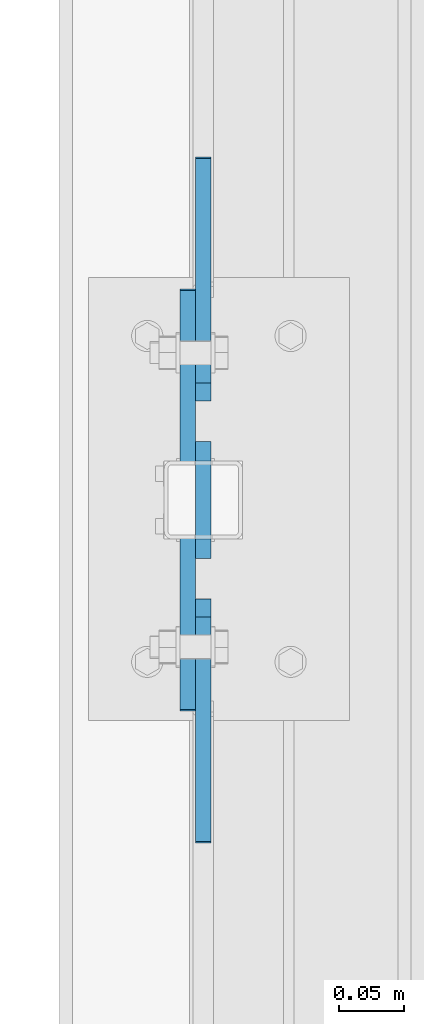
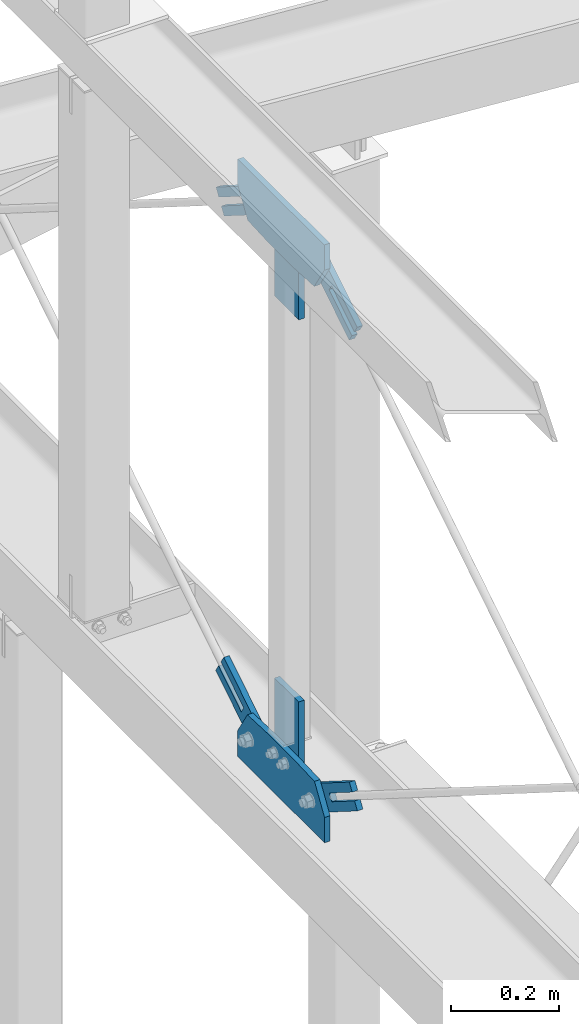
# One storey, part 107 of 271: 8 plates, 7 elements without a shape of their own.
"""IFC2X3 building model written with IfcOpenShell, lengths in millimetres."""

from ifc_helpers import new_model, si_unit, frame, origin_with_axes, place, context, subcontext, project, spatial, polyline, outline, extrude, material, type_object, element, aggregate, save


model = new_model("IFC2X3")

# Units and contexts
model_context = context("Model", 3, precision=1e-05, world=origin_with_axes())
body_context = subcontext(model_context, "Body", "Model", "MODEL_VIEW")
ifc_project = project(units=[si_unit("LENGTHUNIT", "METRE", prefix="MILLI"), si_unit("AREAUNIT", "SQUARE_METRE"), si_unit("VOLUMEUNIT", "CUBIC_METRE"), si_unit("MASSUNIT", "GRAM", prefix="KILO"), si_unit("TIMEUNIT", "SECOND"), si_unit("PLANEANGLEUNIT", "RADIAN"), si_unit("SOLIDANGLEUNIT", "STERADIAN"), si_unit("THERMODYNAMICTEMPERATUREUNIT", "DEGREE_CELSIUS"), si_unit("LUMINOUSINTENSITYUNIT", "LUMEN")], contexts=[model_context])

# Site, building, storey
site_placement = place(None, origin_with_axes())
site = spatial("IfcSite", under=ifc_project, at=site_placement, Name="Undefined", CompositionType="ELEMENT")
building_placement = place(site_placement, origin_with_axes())
building = spatial("IfcBuilding", under=site, at=building_placement, Name="Undefined", CompositionType="ELEMENT")
storey_placement = place(building_placement, origin_with_axes())
storey = spatial("IfcBuildingStorey", under=building, at=storey_placement, Name="Undefined", CompositionType="ELEMENT", Elevation=0.0)

# Assembly, plate
assembly_1_placement = place(storey_placement, origin_with_axes())
assembly_1 = element("IfcElementAssembly", 1, at=assembly_1_placement, inside=storey, AssemblyPlace="NOTDEFINED", PredefinedType="RIGID_FRAME")
ifc_material = material(Name="STEEL/S355JR")
plate_type_1 = type_object("IfcPlateType", Name="BL12*56", PredefinedType="NOTDEFINED")
plate_1_placement = place(assembly_1_placement, frame((98.9999993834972, 2289.7372595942, 19967.7804265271), z_axis=(1.0, 0.0, 0.0), x_axis=(0.0, -0.975225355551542, -0.221213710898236)))
plate_1 = element("IfcPlate", 2, at=plate_1_placement, type_object=plate_type_1, material=ifc_material, Name="BLACHA", ObjectType="BL12*56", context=body_context, shape_type="SweptSolid", body=[
    extrude(outline(polyline([(0.0, 0.0), (21.2132034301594, 1.09139364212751e-11), (39.5979804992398, 18.3847751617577), (39.5979804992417, 39.5979804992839), (-86.9741363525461, 166.170089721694), (-100.762718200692, 152.381515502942), (-30.0520401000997, 81.670829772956), (-42.0728530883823, 69.6500167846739), (-112.783531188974, 140.36070251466), (-126.57211303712, 126.57211303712), (0.0, 0.0)])), frame((0.0, 0.0, -6.0), z_axis=(0.0, 0.0, 1.0), x_axis=(1.0, 0.0, 0.0)), (0.0, 0.0, 1.0), 12.0),
])
aggregate(assembly_1, [plate_1])

assembly_2_placement = place(storey_placement, origin_with_axes())
assembly_2 = element("IfcElementAssembly", 3, at=assembly_2_placement, inside=storey, AssemblyPlace="NOTDEFINED", PredefinedType="RIGID_FRAME")
plate_2_placement = place(assembly_2_placement, frame((98.9999993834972, 2098.50717683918, 19920.4038569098), z_axis=(1.0, 0.0, 0.0), x_axis=(0.0, 0.221213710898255, 0.975225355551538)))
plate_2 = element("IfcPlate", 4, at=plate_2_placement, type_object=plate_type_1, material=ifc_material, Name="BLACHA", ObjectType="BL12*56", context=body_context, shape_type="SweptSolid", body=[
    extrude(outline(polyline([(0.0, 0.0), (21.2132034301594, 1.09139364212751e-11), (39.5979804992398, 18.3847751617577), (39.5979804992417, 39.5979804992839), (-86.9741363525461, 166.170089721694), (-100.762718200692, 152.381515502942), (-30.0520401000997, 81.670829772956), (-42.0728530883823, 69.6500167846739), (-112.783531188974, 140.36070251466), (-126.57211303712, 126.57211303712), (0.0, 0.0)])), frame((0.0, 0.0, -6.0), z_axis=(0.0, 0.0, 1.0), x_axis=(1.0, 0.0, 0.0)), (0.0, 0.0, 1.0), 12.0),
])
aggregate(assembly_2, [plate_2])

assembly_3_placement = place(storey_placement, origin_with_axes())
assembly_3 = element("IfcElementAssembly", 5, at=assembly_3_placement, inside=storey, AssemblyPlace="NOTDEFINED", PredefinedType="RIGID_FRAME")
plate_3_placement = place(assembly_3_placement, frame((98.999999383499, 2067.61844493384, 18681.5695720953), z_axis=(1.0, 0.0, 0.0), x_axis=(0.0, 0.975225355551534, 0.221213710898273)))
plate_3 = element("IfcPlate", 6, at=plate_3_placement, type_object=plate_type_1, material=ifc_material, Name="BLACHA", ObjectType="BL12*56", context=body_context, shape_type="SweptSolid", body=[
    extrude(outline(polyline([(0.0, 0.0), (21.2132034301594, 1.09139364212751e-11), (39.5979804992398, 18.3847751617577), (39.5979804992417, 39.5979804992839), (-86.9741363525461, 166.170089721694), (-100.762718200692, 152.381515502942), (-30.0520401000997, 81.670829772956), (-42.0728530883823, 69.6500167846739), (-112.783531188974, 140.36070251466), (-126.57211303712, 126.57211303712), (0.0, 0.0)])), frame((0.0, 0.0, -6.0), z_axis=(0.0, 0.0, 1.0), x_axis=(1.0, 0.0, 0.0)), (0.0, 0.0, 1.0), 12.0),
])
aggregate(assembly_3, [plate_3])

assembly_4_placement = place(storey_placement, origin_with_axes())
assembly_4 = element("IfcElementAssembly", 7, at=assembly_4_placement, inside=storey, AssemblyPlace="NOTDEFINED", PredefinedType="RIGID_FRAME")
plate_4_placement = place(assembly_4_placement, frame((98.999999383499, 2260.91131941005, 18728.9461409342), z_axis=(1.0, 0.0, 0.0), x_axis=(0.0, -0.221213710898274, -0.975225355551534)))
plate_4 = element("IfcPlate", 8, at=plate_4_placement, type_object=plate_type_1, material=ifc_material, Name="BLACHA", ObjectType="BL12*56", context=body_context, shape_type="SweptSolid", body=[
    extrude(outline(polyline([(0.0, 0.0), (21.2132034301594, 1.09139364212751e-11), (39.5979804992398, 18.3847751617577), (39.5979804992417, 39.5979804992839), (-86.9741363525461, 166.170089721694), (-100.762718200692, 152.381515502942), (-30.0520401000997, 81.670829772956), (-42.0728530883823, 69.6500167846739), (-112.783531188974, 140.36070251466), (-126.57211303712, 126.57211303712), (0.0, 0.0)])), frame((0.0, 0.0, -6.0), z_axis=(0.0, 0.0, 1.0), x_axis=(1.0, 0.0, 0.0)), (0.0, 0.0, 1.0), 12.0),
])
aggregate(assembly_4, [plate_4])

# Assembly, plates
assembly_5_placement = place(storey_placement, origin_with_axes())
assembly_5 = element("IfcElementAssembly", 9, at=assembly_5_placement, inside=storey, AssemblyPlace="NOTDEFINED", PredefinedType="RIGID_FRAME")
plate_type_2 = type_object("IfcPlateType", Name="BL12*90", PredefinedType="NOTDEFINED")
plate_5_placement = place(assembly_5_placement, frame((98.9999993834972, 2224.19355050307, 19916.4686765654), z_axis=(1.0, 0.0, 0.0), x_axis=(0.0, -0.707106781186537, 0.707106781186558)))
plate_5 = element("IfcPlate", 10, at=plate_5_placement, type_object=plate_type_2, material=ifc_material, Name="BLACHA", ObjectType="BL12*90", context=body_context, shape_type="SweptSolid", body=[
    extrude(outline(polyline([(0.0, 0.0), (21.2132034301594, 1.09139364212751e-11), (63.6396102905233, 42.4264068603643), (63.6396102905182, 63.6396102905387), (-48.7903671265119, 176.069595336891), (-59.0434150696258, 165.816543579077), (-102.176933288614, 122.683029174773), (-112.42997741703, 112.429977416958), (0.0, 0.0)])), frame((0.0, 0.0, -6.0), z_axis=(0.0, 0.0, 1.0), x_axis=(1.0, 0.0, 0.0)), (0.0, 0.0, 1.0), 12.0),
])
plate_6_placement = place(assembly_5_placement, frame((98.999999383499, 2134.19355050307, 18732.649999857), z_axis=(1.0, 0.0, 0.0), x_axis=(0.0, 0.707106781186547, -0.707106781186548)))
plate_6 = element("IfcPlate", 11, at=plate_6_placement, type_object=plate_type_2, material=ifc_material, Name="BLACHA", ObjectType="BL12*90", context=body_context, shape_type="SweptSolid", body=[
    extrude(outline(polyline([(0.0, 0.0), (21.2132034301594, 1.09139364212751e-11), (63.6396102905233, 42.4264068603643), (63.6396102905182, 63.6396102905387), (-48.7903671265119, 176.069595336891), (-59.0434150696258, 165.816543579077), (-102.176933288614, 122.683029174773), (-112.42997741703, 112.429977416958), (0.0, 0.0)])), frame((0.0, 0.0, -6.0), z_axis=(0.0, 0.0, 1.0), x_axis=(1.0, 0.0, 0.0)), (0.0, 0.0, 1.0), 12.0),
])
aggregate(assembly_5, [plate_5, plate_6])

# Assembly, plate
assembly_6_placement = place(storey_placement, origin_with_axes())
assembly_6 = element("IfcElementAssembly", 12, at=assembly_6_placement, inside=storey, AssemblyPlace="NOTDEFINED", PredefinedType="RIGID_FRAME")
plate_type_3 = type_object("IfcPlateType", Name="BL12*120", PredefinedType="NOTDEFINED")
plate_7_placement = place(assembly_6_placement, frame((86.9999993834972, 2339.99998783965, 20001.6999998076), z_axis=(1.0, 0.0, 0.0), x_axis=(0.0, -1.0, 0.0)))
plate_7 = element("IfcPlate", 13, at=plate_7_placement, type_object=plate_type_3, material=ifc_material, Name="BLACHA", ObjectType="BL12*120", context=body_context, shape_type="SweptSolid", body=[
    extrude(outline(polyline([(0.0, 0.0), (321.612884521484, 0.0), (321.612884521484, 57.3216705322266), (284.291198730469, 116.542381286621), (210.806442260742, 120.231323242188), (110.806434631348, 120.231323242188), (37.3216705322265, 116.542381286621), (0.0, 57.3216705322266), (0.0, 0.0)])), frame((0.0, 0.0, -6.0), z_axis=(0.0, 0.0, 1.0), x_axis=(1.0, 0.0, 0.0)), (0.0, 0.0, 1.0), 12.0),
])
aggregate(assembly_6, [plate_7])

assembly_7_placement = place(storey_placement, origin_with_axes())
assembly_7 = element("IfcElementAssembly", 14, at=assembly_7_placement, inside=storey, AssemblyPlace="NOTDEFINED", PredefinedType="RIGID_FRAME")
plate_8_placement = place(assembly_7_placement, frame((86.999999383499, 2017.35571734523, 18647.649999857), z_axis=(1.0, 0.0, 0.0), x_axis=(0.0, 1.0, 0.0)))
plate_8 = element("IfcPlate", 15, at=plate_8_placement, type_object=plate_type_3, material=ifc_material, Name="BLACHA", ObjectType="BL12*120", context=body_context, shape_type="SweptSolid", body=[
    extrude(outline(polyline([(0.0, 0.0), (323.675659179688, 0.0), (323.675659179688, 57.3216705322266), (286.35400390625, 116.542381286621), (201.571578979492, 120.0), (122.104080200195, 120.0), (37.3216705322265, 116.542381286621), (0.0, 57.3216705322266), (0.0, 0.0)])), frame((0.0, 0.0, -6.0), z_axis=(0.0, 0.0, 1.0), x_axis=(1.0, 0.0, 0.0)), (0.0, 0.0, 1.0), 12.0),
])
aggregate(assembly_7, [plate_8])

save(model, "model.ifc")
